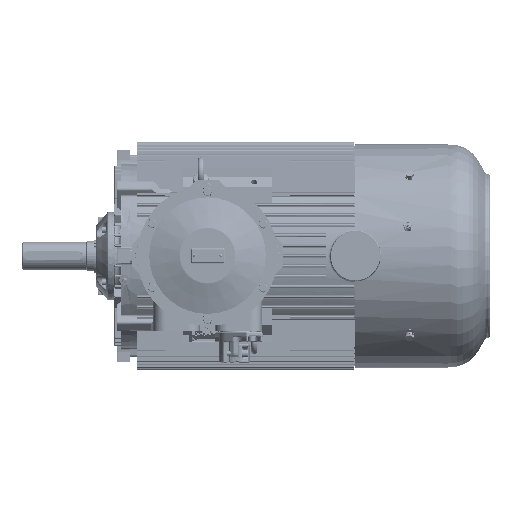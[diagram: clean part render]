
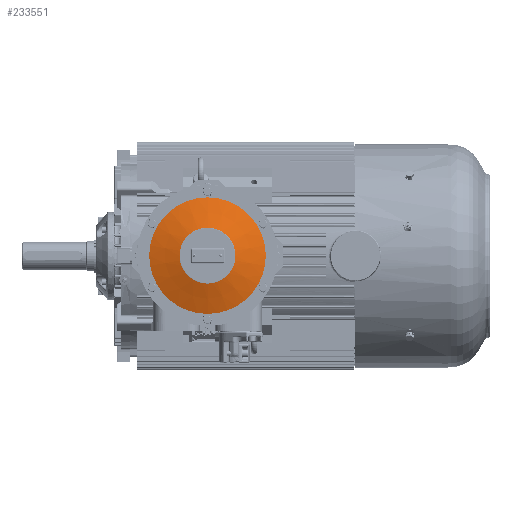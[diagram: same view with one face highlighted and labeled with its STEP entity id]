
A CAD part, top view. The second image highlights one B-rep face of the part: STEP entity #233551.
In plain terms, the highlighted conical face has half-angle 73.102 degrees and reference radius 125.668 mm.
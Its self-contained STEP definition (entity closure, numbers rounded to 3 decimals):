
#1305=CONICAL_SURFACE('',#245327,125.668,1.276);
#43060=CIRCLE('',#245318,125.668);
#43069=CIRCLE('',#245328,60.315);
#78538=ORIENTED_EDGE('',*,*,#110431,.F.);
#78539=ORIENTED_EDGE('',*,*,#110440,.T.);
#110431=EDGE_CURVE('',#128948,#128948,#43060,.T.);
#110440=EDGE_CURVE('',#128957,#128957,#43069,.T.);
#128948=VERTEX_POINT('',#341914);
#128957=VERTEX_POINT('',#341933);
#143653=EDGE_LOOP('',(#78538));
#143654=EDGE_LOOP('',(#78539));
#156100=FACE_BOUND('',#143653,.T.);
#156101=FACE_BOUND('',#143654,.T.);
#233551=ADVANCED_FACE('',(#156100,#156101),#1305,.T.);
#245318=AXIS2_PLACEMENT_3D('',#341913,#280969,#280970);
#245327=AXIS2_PLACEMENT_3D('',#341931,#280987,#280988);
#245328=AXIS2_PLACEMENT_3D('',#341932,#280989,#280990);
#280969=DIRECTION('',(0.,0.,-1.));
#280970=DIRECTION('',(0.,1.,0.));
#280987=DIRECTION('',(0.,0.,-1.));
#280988=DIRECTION('',(0.,1.,0.));
#280989=DIRECTION('',(0.,0.,-1.));
#280990=DIRECTION('',(0.,1.,0.));
#341913=CARTESIAN_POINT('',(176.,0.,445.));
#341914=CARTESIAN_POINT('',(176.,125.668,445.));
#341931=CARTESIAN_POINT('',(176.,0.,445.));
#341932=CARTESIAN_POINT('',(176.,0.,464.853));
#341933=CARTESIAN_POINT('',(176.,60.315,464.853));
